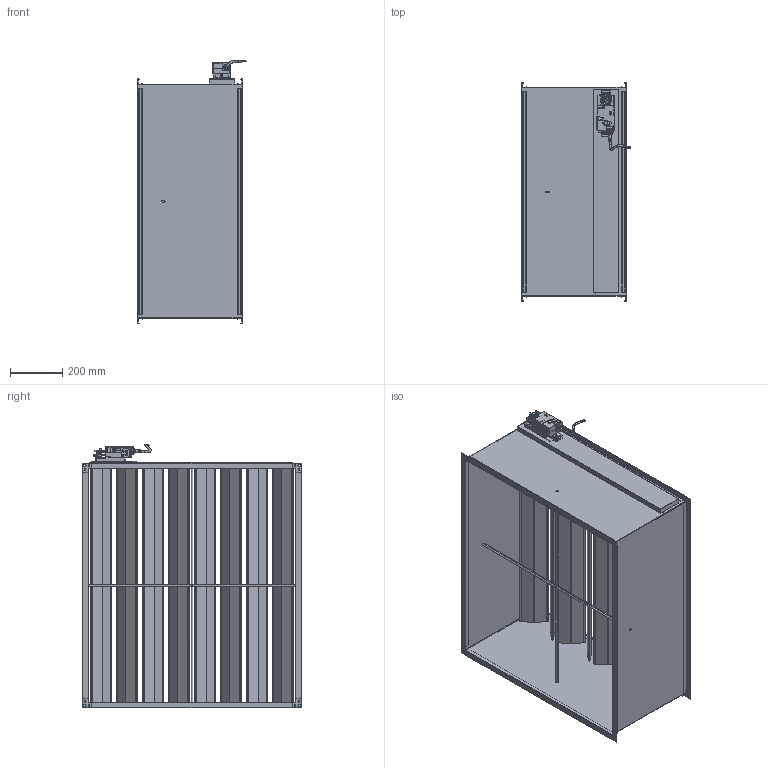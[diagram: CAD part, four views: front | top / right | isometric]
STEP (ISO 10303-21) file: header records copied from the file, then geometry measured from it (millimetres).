
FILE_DESCRIPTION (( 'STEP AP214' ), '1' );
FILE_NAME ('VAV-S900800.STEP', '2025-05-08T12:05:59', ( '' ), ( '' ), 'SwSTEP 2.0', 'SolidWorks 2025', '' );
FILE_SCHEMA (( 'AUTOMOTIVE_DESIGN' ));
Length unit declared in the file: millimetre
Products named in the file (1): VAV-S900800
Bounding box: 420.16 x 841 x 1013.69 mm (x, y, z)
Surface area: 5768381.8 mm2 (no closed solid volume)
Topology: 0 solids, 48 shells, 2154 faces, 5654 edges, 3604 vertices
Faces by surface type: plane 1563, cylinder 538, bspline 24, sphere 18, cone 10, torus 1
Full cylindrical faces by diameter (mm): 1 x4, 6 x17, 8 x1, 9 x8, 11 x1, 20 x1, 21 x2
Entity records: 94016 total; most frequent: CARTESIAN_POINT 41966, ORIENTED_EDGE 11089, DIRECTION 7280, EDGE_CURVE 5568, VERTEX_POINT 3577, B_SPLINE_CURVE_WITH_KNOTS 3170, AXIS2_PLACEMENT_3D 2763, EDGE_LOOP 2366
